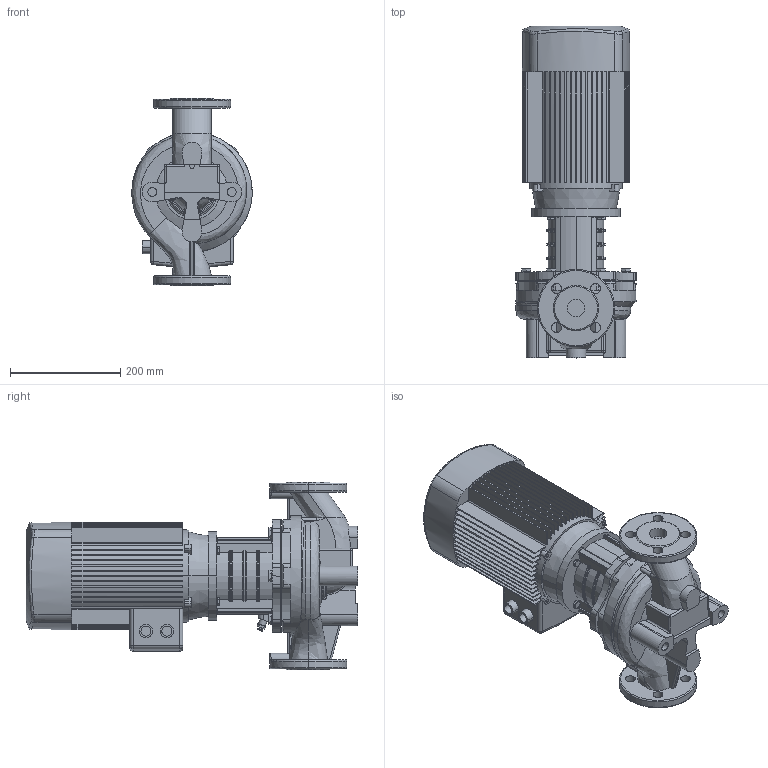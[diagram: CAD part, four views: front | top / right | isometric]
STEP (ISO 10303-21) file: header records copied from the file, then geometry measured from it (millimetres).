
FILE_DESCRIPTION(/* description */ (''),/* implementation_level */ '2;1');
FILE_NAME(/* name */ 'TD32-33-2安装尺寸图.stp',/* time_stamp */ '2026-09-07T14:49:30+08:00',/* author */ (''),/* organization */ (''),/* preprocessor_version */ 'ST-DEVELOPER v16.7',/* originating_system */ 'SIEMENS PLM Software NX 1847',/* authorisation */ '');
FILE_SCHEMA (('AP203_CONFIGURATION_CONTROLLED_3D_DESIGN_OF_MECHANICAL_PARTS_AND_ASSEMBLIES_MIM_LF { 1 0 10303 403 2 1 2}'));
Length unit declared in the file: millimetre
Products named in the file (1): Admi55F8EAC4yzi5
Bounding box: 217.86 x 601 x 340 mm (x, y, z)
Volume: 15306911.3 mm3; surface area: 984946.1 mm2
Topology: 1 solids, 8 shells, 1067 faces, 2744 edges, 1703 vertices
Faces by surface type: plane 459, cylinder 345, torus 97, cone 79, bspline 53, sphere 34
Full cylindrical faces by diameter (mm): 7.76 x4, 8 x1, 9.732 x6, 10 x1, 11.63 x4, 12.9 x1, 14.63 x6, 155 x1, 165 x1
Entity records: 38409 total; most frequent: CARTESIAN_POINT 12817, DIRECTION 5404, ORIENTED_EDGE 5322, EDGE_CURVE 2661, AXIS2_PLACEMENT_3D 2111, VERTEX_POINT 1691, EDGE_LOOP 1188, LINE 1182
